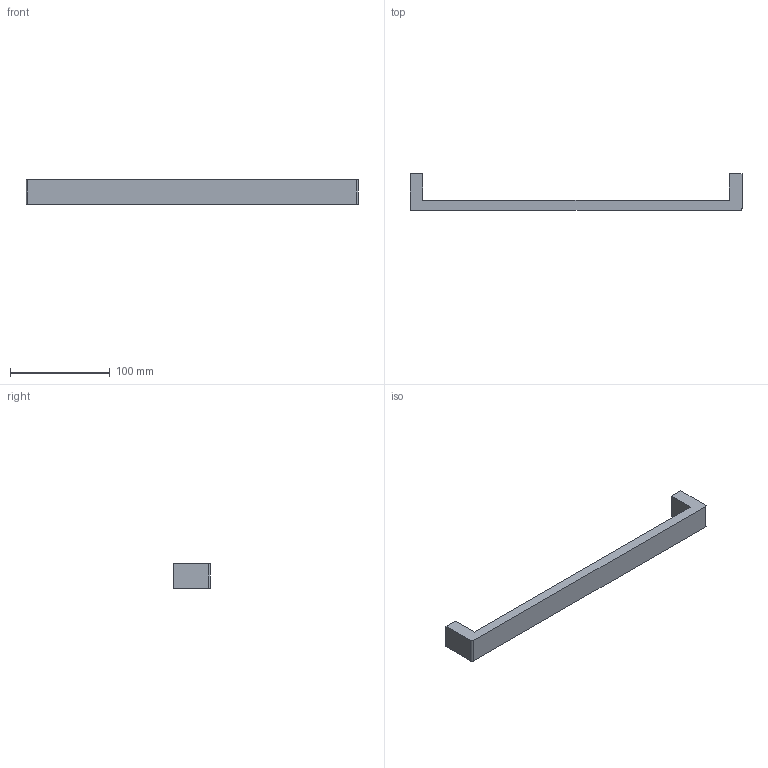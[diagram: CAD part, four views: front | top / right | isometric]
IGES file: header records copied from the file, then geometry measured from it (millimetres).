
Start section: Data from Parasolid IGES Translator 15.0.47, Copyright(c) 2006 Siemens P LM Software. All Rights Reserved.
Global section: file name: 115387.igs; native system:  By UGS Corp.; preprocessor: XPlus GENERIC/IGES 3.0; author: Noname; organization: Noname; date: 20151204.133920; units: millimetre
Bounding box: 333 x 37 x 25 mm (x, y, z)
Surface area: 28068.7 mm2 (no closed solid volume)
Topology: 0 solids, 0 shells, 16 faces, 72 edges, 70 vertices
Faces by surface type: extrusion 12, revolution 4
